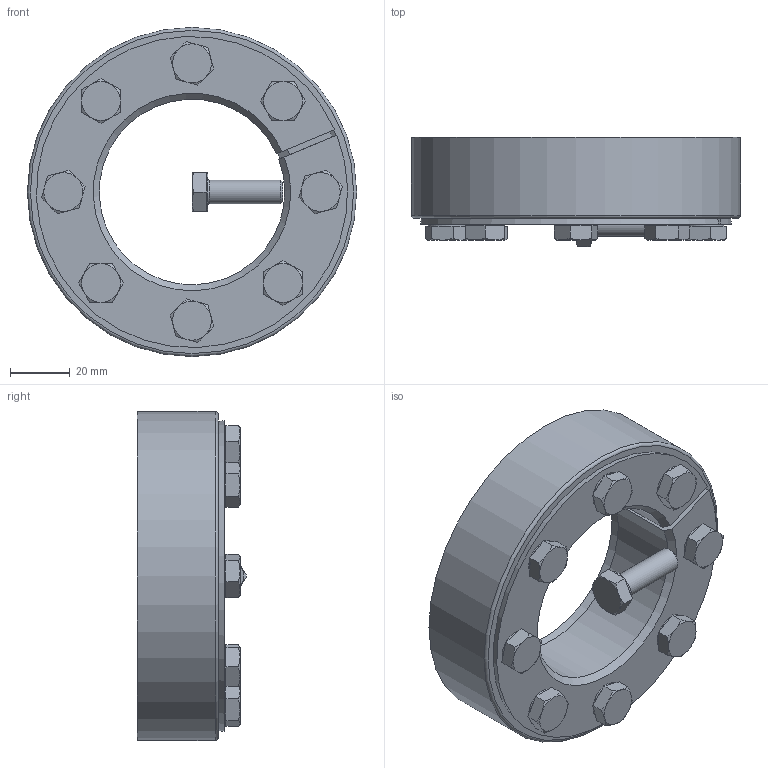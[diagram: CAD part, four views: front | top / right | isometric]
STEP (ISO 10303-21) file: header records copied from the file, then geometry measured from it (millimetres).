
FILE_DESCRIPTION( ( 'Unknown' ), '1' );
FILE_NAME( 'C:/Dokumente und Einstellungen/Sven/Desktop/homepage/cad - homepage/KBS19-1/KBS 19_1 - 62 x 110.stp', 'Unknown', ( 'Unknown' ), ( 'Unknown' ), 'XStep 1.0', 'Unknown', ' ' );
FILE_SCHEMA( ( 'automotive_design' ) );
Length unit declared in the file: millimetre
Products named in the file (3): Assem1; KBS 19_1 - 62 x 110; ISO 4017 - M8 x 25-N
Bounding box: 110 x 36.51 x 110 mm (x, y, z)
Volume: 363660.4 mm3; surface area: 78173.5 mm2
Topology: 11 solids, 11 shells, 271 faces, 606 edges, 366 vertices
Faces by surface type: plane 153, cone 69, cylinder 38, torus 11
Full cylindrical faces by diameter (mm): 8 x25, 13 x9, 110 x2
Entity records: 1650 total; most frequent: CARTESIAN_POINT 281, DIRECTION 240, ORIENTED_EDGE 198, AXIS2_PLACEMENT_3D 101, EDGE_CURVE 99, EDGE_LOOP 81, VERTEX_POINT 70, FACE_OUTER_BOUND 61
